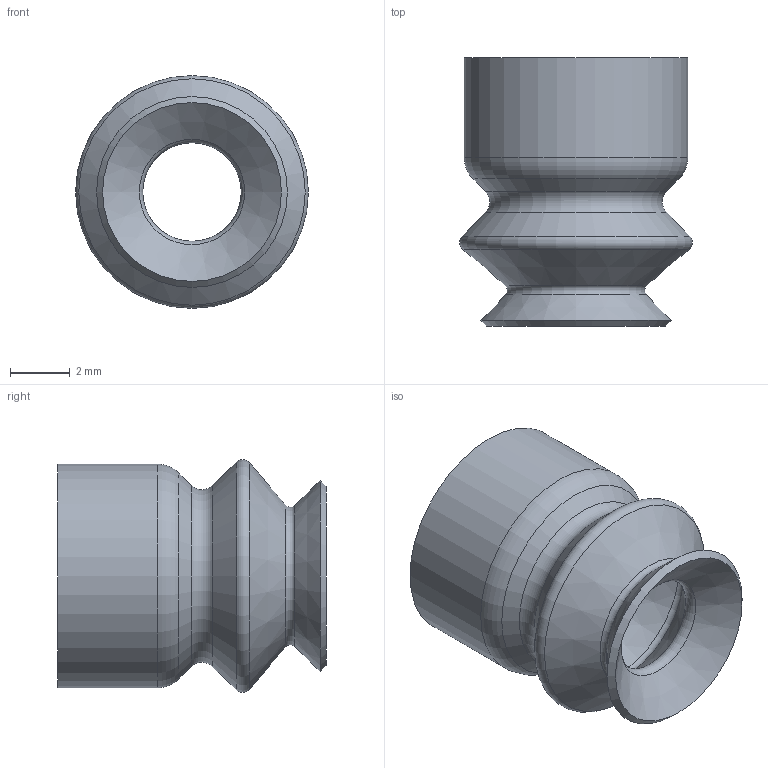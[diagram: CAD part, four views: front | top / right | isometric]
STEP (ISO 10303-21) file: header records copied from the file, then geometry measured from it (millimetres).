
FILE_DESCRIPTION(('STEP AP203'),'1');
FILE_NAME('_3D.stp','2024-06-11T23:51:02',(' '),(' '),'Spatial InterOp 3D',' ',' ');
FILE_SCHEMA(('CONFIG_CONTROL_DESIGN'));
Length unit declared in the file: millimetre
Products named in the file (1): 1
Bounding box: 7.81 x 9 x 7.81 mm (x, y, z)
Volume: 163 mm3; surface area: 433.5 mm2
Topology: 1 solids, 1 shells, 25 faces, 62 edges, 39 vertices
Faces by surface type: torus 11, cone 9, cylinder 3, plane 2
Full cylindrical faces by diameter (mm): 4 x1, 6 x1, 7.5 x1
Entity records: 552 total; most frequent: DIRECTION 102, CARTESIAN_POINT 76, AXIS2_PLACEMENT_3D 51, EDGE_LOOP 50, ORIENTED_EDGE 50, FACE_OUTER_BOUND 39, ADVANCED_FACE 25, EDGE_CURVE 25
